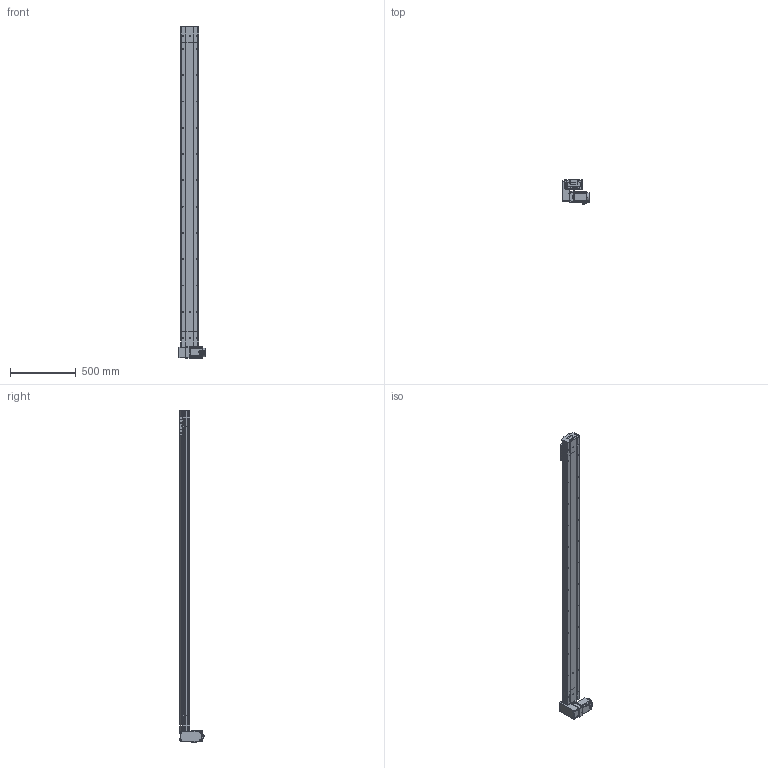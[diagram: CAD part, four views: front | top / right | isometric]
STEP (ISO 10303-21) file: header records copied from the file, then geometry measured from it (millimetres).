
FILE_DESCRIPTION (( 'STEP AP214' ), '1' );
FILE_NAME ('D14 TBH RU S2200.STEP', '2010-06-29T14:20:08', ( 'Conseil Régional Haute-Normandie' ), ( 'Conseil Régional Haute-Normandie' ), 'SwSTEP 2.0', 'SolidWorks 2010', '' );
FILE_SCHEMA (( 'AUTOMOTIVE_DESIGN' ));
Length unit declared in the file: millimetre
Products named in the file (39): tete d''axe haut D14; plaque de  bout tail D14_Default; Vis M5 L16-2_Default; Cvis M5 L70_Default; vis M5 L16_Default; Arbre+rail tail D14; couvercle D14_Default; chariot D14B_Default; vis M5 L12_Default; renvoi RH_Default; D14 TBH RU S2200; vis M5 L5_Default; D14 couroie L2200_Default; corpl 2200_Default; guide D14; avant 90BLDC100A-640; vis M5 L8 90°_Default; poulie tail_Default; plaque de  bout head D14 RU_Default; corp head D14_Default; couroie 2_Default; Arbre+rail head D14; couvercle D14 head_Default; poulie head_Default; Moteur motionking 90BLDC100A-640; corps 90BLDC100A-640; codeur 90BLDC100-640; Couroie_Default; D14 TB H RU_Default; Rail + couroie D14 Course 2200 ; Chariot D14; Conecteur2_Default; Plaque racord D14_Default; Conecteur_Default; Cache_Default; Cache arbre_Default; couvercle D14 course L2200_Default; Tail D14B_Default; corpl tail D14_Default
Assembly tree (68 placements, depth 4):
  D14 TBH RU S2200
    D14 TB H RU_Default
      vis M5 L12_Default  x12
      Cvis M5 L70_Default  x4
      couvercle D14 head_Default
      renvoi RH_Default
      plaque de  bout head D14 RU_Default
      Moteur motionking 90BLDC100A-640
        codeur 90BLDC100-640
        corps 90BLDC100A-640
        avant 90BLDC100A-640
        Conecteur2_Default
        Conecteur_Default
      Plaque racord D14_Default
      Vis M5 L16-2_Default  x4
      vis M5 L5_Default  x2
      couroie 2_Default
      corp head D14_Default
      Cache arbre_Default
      poulie head_Default
      Cache_Default  x2
      Arbre+rail head D14
    chariot D14B_Default
      guide D14  x2
      Chariot D14
      vis M5 L12_Default  x4
    D14 couroie L2200_Default
      Rail + couroie D14 Course 2200 
      corpl 2200_Default
      couvercle D14 course L2200_Default
    Tail D14B_Default
      vis M5 L16_Default  x2
      Couroie_Default
      vis M5 L12_Default  x4
      Arbre+rail tail D14
      corpl tail D14_Default
      tete d''axe haut D14
      plaque de  bout tail D14_Default
      couvercle D14_Default
      poulie tail_Default
      vis M5 L8 90°_Default  x2
Bounding box: 207.2 x 191.1 x 2525.75 mm (x, y, z)
Volume: 9732372.1 mm3; surface area: 3457832.2 mm2
Topology: 92 solids, 92 shells, 2709 faces, 6611 edges, 4266 vertices
Faces by surface type: plane 1609, cylinder 787, bspline 136, torus 89, cone 84, sphere 4
Entity records: 81512 total; most frequent: CARTESIAN_POINT 23925, ORIENTED_EDGE 10082, DIRECTION 9956, EDGE_CURVE 5041, VECTOR 3334, LINE 3334, VERTEX_POINT 3316, AXIS2_PLACEMENT_3D 3311
